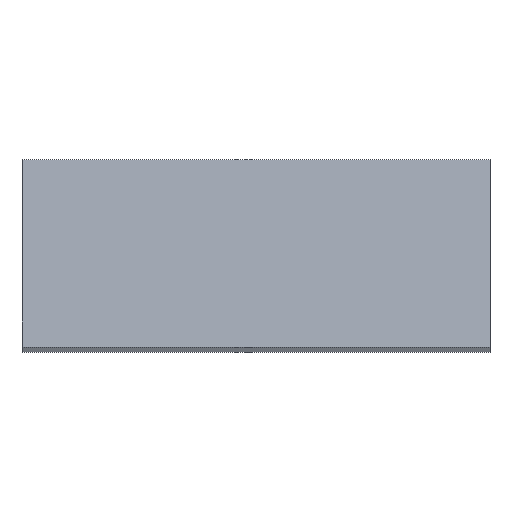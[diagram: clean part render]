
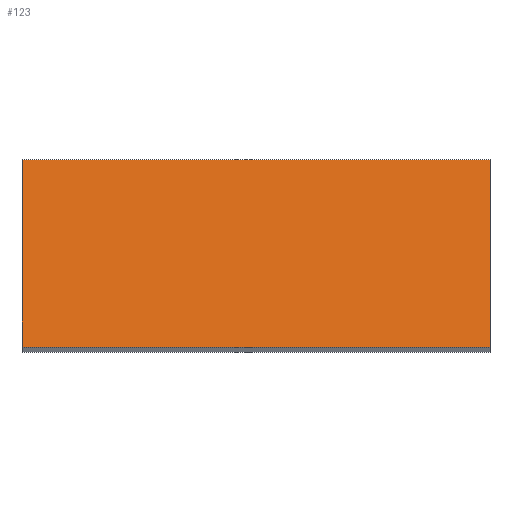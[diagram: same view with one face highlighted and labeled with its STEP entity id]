
A CAD part, top view. The second image highlights one B-rep face of the part: STEP entity #123.
In plain terms, the highlighted planar face has unit normal (0, 0.174, 0.985).
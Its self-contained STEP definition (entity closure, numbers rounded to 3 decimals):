
#67=CARTESIAN_POINT('',(-278.5,-44.714,274.224));
#68=VERTEX_POINT('',#67);
#75=CARTESIAN_POINT('',(-278.5,-108.726,285.511));
#76=VERTEX_POINT('',#75);
#77=CARTESIAN_POINT('',(-278.5,-44.714,274.224));
#78=DIRECTION('',(0.0,-0.985,0.174));
#79=VECTOR('',#78,1.);
#80=LINE('',#77,#79);
#81=EDGE_CURVE('',#68,#76,#80,.T.);
#93=CARTESIAN_POINT('',(-278.5,-44.714,274.224));
#94=DIRECTION('',(0.0,0.174,0.985));
#95=DIRECTION('',(-1.0,0.0,0.0));
#96=AXIS2_PLACEMENT_3D('',#93,#94,#95);
#97=PLANE('',#96);
#98=CARTESIAN_POINT('',(-438.5,-44.714,274.224));
#99=VERTEX_POINT('',#98);
#100=CARTESIAN_POINT('',(-278.5,-44.714,274.224));
#101=DIRECTION('',(-1.0,0.,0.));
#102=VECTOR('',#101,1.);
#103=LINE('',#100,#102);
#104=EDGE_CURVE('',#68,#99,#103,.T.);
#105=ORIENTED_EDGE('',*,*,#104,.T.);
#106=CARTESIAN_POINT('',(-438.5,-108.726,285.511));
#107=VERTEX_POINT('',#106);
#108=CARTESIAN_POINT('',(-438.5,-44.714,274.224));
#109=DIRECTION('',(0.0,-0.985,0.174));
#110=VECTOR('',#109,1.);
#111=LINE('',#108,#110);
#112=EDGE_CURVE('',#99,#107,#111,.T.);
#113=ORIENTED_EDGE('',*,*,#112,.T.);
#114=CARTESIAN_POINT('',(-278.5,-108.726,285.511));
#115=DIRECTION('',(-1.0,0.,0.));
#116=VECTOR('',#115,1.);
#117=LINE('',#114,#116);
#118=EDGE_CURVE('',#76,#107,#117,.T.);
#119=ORIENTED_EDGE('',*,*,#118,.F.);
#120=ORIENTED_EDGE('',*,*,#81,.F.);
#121=EDGE_LOOP('',(#105,#113,#119,#120));
#122=FACE_BOUND('',#121,.T.);
#123=ADVANCED_FACE('',(#122),#97,.T.);
